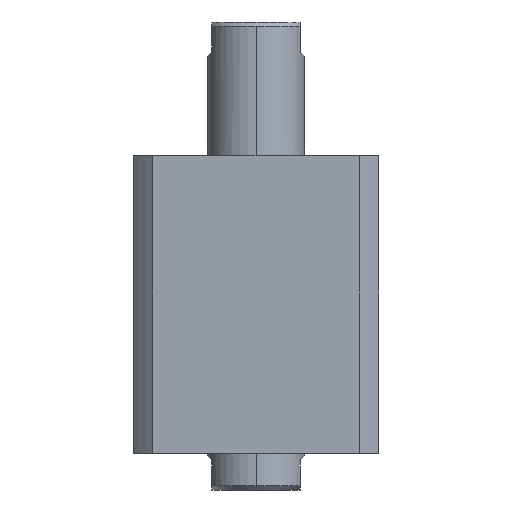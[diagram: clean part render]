
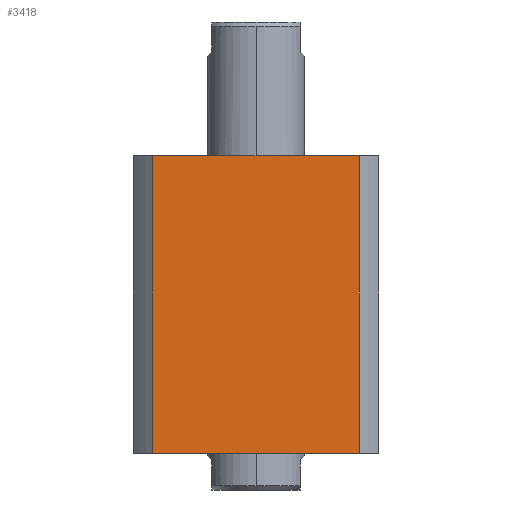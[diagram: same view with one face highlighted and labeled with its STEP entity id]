
A CAD part, front view. The second image highlights one B-rep face of the part: STEP entity #3418.
In plain terms, the highlighted planar face has unit normal (0, -1, 0) as drawn and (1, 0, 0) by its records, which use the part's own axes.
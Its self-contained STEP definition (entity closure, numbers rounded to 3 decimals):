
#1191 = DIRECTION ( 'NONE',  ( 0., 0., -1. ) ) ;
#1255 = VECTOR ( 'NONE', #1191, 1000. ) ;
#1620 = CARTESIAN_POINT ( 'NONE',  ( 57., 57., 138. ) ) ;
#2558 = EDGE_CURVE ( 'NONE', #9567, #15765, #12203, .T. ) ;
#2770 = CARTESIAN_POINT ( 'NONE',  ( 57., -47.971, -162. ) ) ;
#3136 = AXIS2_PLACEMENT_3D ( 'NONE', #1620, #11351, #4065 ) ;
#3418 = ADVANCED_FACE ( 'NONE', ( #10870 ), #10132, .F. ) ;
#3808 = EDGE_CURVE ( 'NONE', #7936, #15765, #7718, .T. ) ;
#3993 = DIRECTION ( 'NONE',  ( 0., 0., 1. ) ) ;
#4065 = DIRECTION ( 'NONE',  ( 0., -1., 0. ) ) ;
#4152 = CARTESIAN_POINT ( 'NONE',  ( 57., 57., 0. ) ) ;
#6193 = VECTOR ( 'NONE', #3993, 1000. ) ;
#7346 = LINE ( 'NONE', #2770, #6193 ) ;
#7347 = CARTESIAN_POINT ( 'NONE',  ( 57., 57., 138. ) ) ;
#7382 = EDGE_CURVE ( 'NONE', #10507, #7936, #7672, .T. ) ;
#7486 = ORIENTED_EDGE ( 'NONE', *, *, #3808, .F. ) ;
#7672 = LINE ( 'NONE', #7347, #14159 ) ;
#7718 = LINE ( 'NONE', #15687, #1255 ) ;
#7936 = VERTEX_POINT ( 'NONE', #14783 ) ;
#8131 = ORIENTED_EDGE ( 'NONE', *, *, #11317, .F. ) ;
#9567 = VERTEX_POINT ( 'NONE', #9770 ) ;
#9770 = CARTESIAN_POINT ( 'NONE',  ( 57., -47.971, 0. ) ) ;
#10132 = PLANE ( 'NONE',  #3136 ) ;
#10507 = VERTEX_POINT ( 'NONE', #15722 ) ;
#10870 = FACE_OUTER_BOUND ( 'NONE', #15506, .T. ) ;
#11317 = EDGE_CURVE ( 'NONE', #9567, #10507, #7346, .T. ) ;
#11351 = DIRECTION ( 'NONE',  ( -1., 0., 0. ) ) ;
#12203 = LINE ( 'NONE', #4152, #14670 ) ;
#12249 = DIRECTION ( 'NONE',  ( 0., 1., 0. ) ) ;
#12659 = DIRECTION ( 'NONE',  ( 0., 1., 0. ) ) ;
#13323 = CARTESIAN_POINT ( 'NONE',  ( 57., 47.971, 0. ) ) ;
#14159 = VECTOR ( 'NONE', #12249, 1000. ) ;
#14670 = VECTOR ( 'NONE', #12659, 1000. ) ;
#14783 = CARTESIAN_POINT ( 'NONE',  ( 57., 47.971, 138. ) ) ;
#15379 = ORIENTED_EDGE ( 'NONE', *, *, #2558, .T. ) ;
#15506 = EDGE_LOOP ( 'NONE', ( #8131, #15379, #7486, #15524 ) ) ;
#15524 = ORIENTED_EDGE ( 'NONE', *, *, #7382, .F. ) ;
#15687 = CARTESIAN_POINT ( 'NONE',  ( 57., 47.971, -162. ) ) ;
#15722 = CARTESIAN_POINT ( 'NONE',  ( 57., -47.971, 138. ) ) ;
#15765 = VERTEX_POINT ( 'NONE', #13323 ) ;
